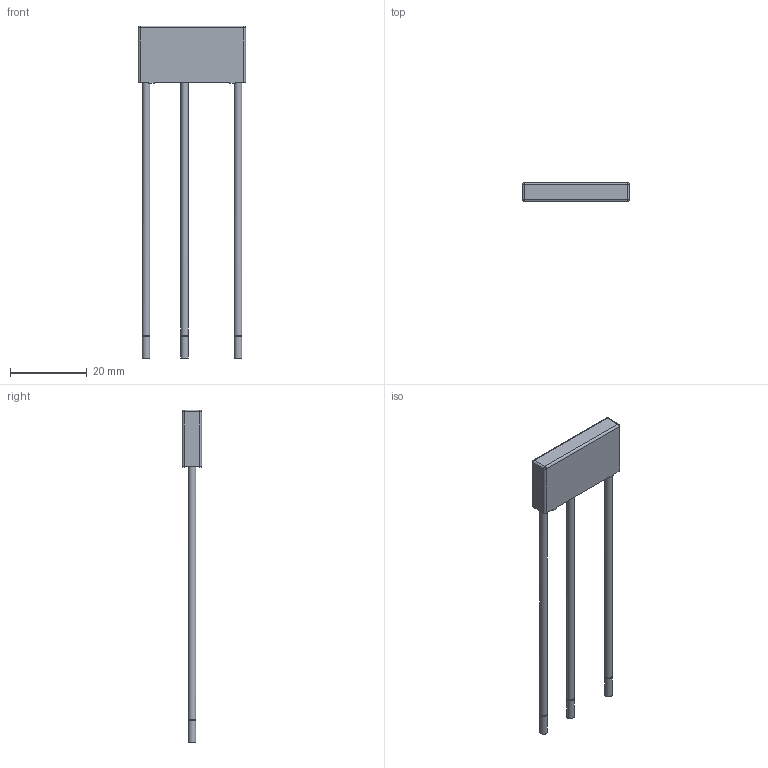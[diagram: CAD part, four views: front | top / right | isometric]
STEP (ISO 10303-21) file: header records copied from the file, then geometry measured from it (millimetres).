
FILE_DESCRIPTION(/* description */ ('Unknown'),/* implementation_level */ '2;1');
FILE_NAME(/* name */ '013_00',/* time_stamp */ '2021-10-14T08:06:27+02:00',/* author */ ('Unknown'),/* organization */ ('Unknown'),/* preprocessor_version */ 'ST-DEVELOPER v16.7',/* originating_system */ 'DEX',/* authorisation */ $);
FILE_SCHEMA (('AUTOMOTIVE_DESIGN {1 0 10303 214 3 1 1}'));
Length unit declared in the file: millimetre
Products named in the file (1): 013_00
Bounding box: 28 x 5 x 86.7 mm (x, y, z)
Volume: 2697.9 mm3; surface area: 2615 mm2
Topology: 1 solids, 1 shells, 64 faces, 151 edges, 97 vertices
Faces by surface type: plane 40, cylinder 20, sphere 4
Full cylindrical faces by diameter (mm): 1 x6, 2 x6
Entity records: 2145 total; most frequent: DIRECTION 296, CARTESIAN_POINT 279, ORIENTED_EDGE 252, EDGE_CURVE 126, AXIS2_PLACEMENT_3D 105, VERTEX_POINT 88, EDGE_LOOP 88, FACE_BOUND 88
